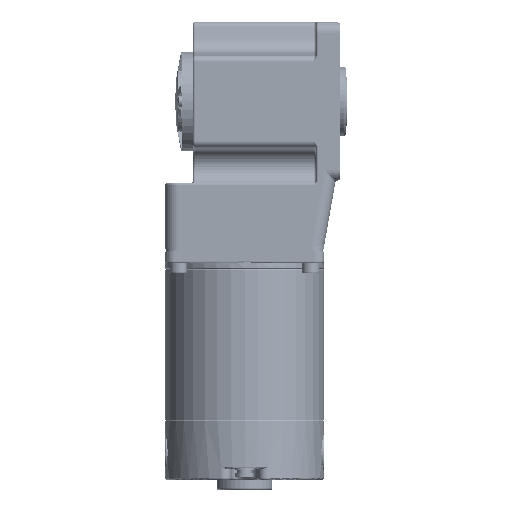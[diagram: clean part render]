
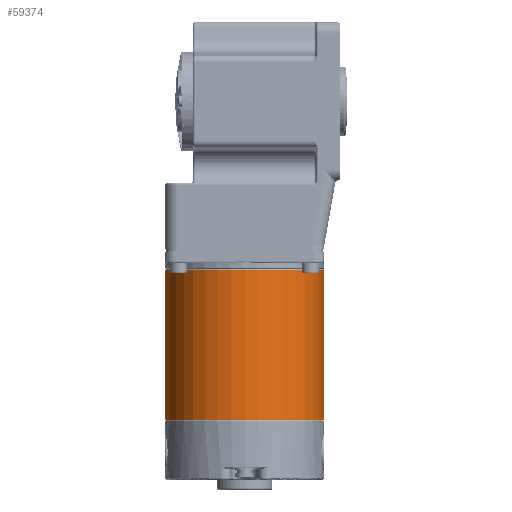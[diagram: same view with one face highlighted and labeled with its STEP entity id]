
A CAD part, front view. The second image highlights one B-rep face of the part: STEP entity #59374.
In plain terms, the highlighted cylindrical face has radius 40 mm (diameter 80 mm), a partial arc.
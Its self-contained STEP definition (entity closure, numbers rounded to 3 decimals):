
#192 = EDGE_LOOP ( 'NONE', ( #23613, #48236, #24735, #98974, #15618 ) ) ;
#1284 = DIRECTION ( 'NONE',  ( 0., 1., 0. ) ) ;
#6433 = CIRCLE ( 'NONE', #14237, 40. ) ;
#13185 = EDGE_CURVE ( 'NONE', #91516, #102251, #62380, .T. ) ;
#14237 = AXIS2_PLACEMENT_3D ( 'NONE', #28993, #1284, #99070 ) ;
#15618 = ORIENTED_EDGE ( 'NONE', *, *, #13185, .T. ) ;
#16999 = VECTOR ( 'NONE', #108159, 1000. ) ;
#18683 = LINE ( 'NONE', #77669, #61444 ) ;
#19146 = DIRECTION ( 'NONE',  ( 0., -1., 0. ) ) ;
#23613 = ORIENTED_EDGE ( 'NONE', *, *, #110107, .F. ) ;
#24735 = ORIENTED_EDGE ( 'NONE', *, *, #111936, .T. ) ;
#28993 = CARTESIAN_POINT ( 'NONE',  ( 0., 0.3, 0. ) ) ;
#31883 = EDGE_CURVE ( 'NONE', #78591, #91516, #81177, .T. ) ;
#33419 = DIRECTION ( 'NONE',  ( 0., 0., 1. ) ) ;
#33834 = CARTESIAN_POINT ( 'NONE',  ( 0., 0.3, 0. ) ) ;
#44873 = FACE_OUTER_BOUND ( 'NONE', #192, .T. ) ;
#48236 = ORIENTED_EDGE ( 'NONE', *, *, #98014, .T. ) ;
#51045 = CYLINDRICAL_SURFACE ( 'NONE', #60754, 40. ) ;
#54466 = VERTEX_POINT ( 'NONE', #89159 ) ;
#54700 = DIRECTION ( 'NONE',  ( 0., 1., 0. ) ) ;
#55554 = CARTESIAN_POINT ( 'NONE',  ( 0., 0., 0. ) ) ;
#59374 = ADVANCED_FACE ( 'NONE', ( #44873 ), #51045, .T. ) ;
#60754 = AXIS2_PLACEMENT_3D ( 'NONE', #55554, #54700, #123924 ) ;
#61408 = CARTESIAN_POINT ( 'NONE',  ( 0., 0.3, 40. ) ) ;
#61444 = VECTOR ( 'NONE', #97333, 1000. ) ;
#62380 = CIRCLE ( 'NONE', #97472, 40. ) ;
#64620 = DIRECTION ( 'NONE',  ( 0., 1., 0. ) ) ;
#70103 = CARTESIAN_POINT ( 'NONE',  ( 0., 0., 40. ) ) ;
#77669 = CARTESIAN_POINT ( 'NONE',  ( 0., 0., -40. ) ) ;
#78591 = VERTEX_POINT ( 'NONE', #61408 ) ;
#81177 = LINE ( 'NONE', #70103, #16999 ) ;
#87231 = AXIS2_PLACEMENT_3D ( 'NONE', #33834, #64620, #33419 ) ;
#89159 = CARTESIAN_POINT ( 'NONE',  ( -40., 0.3, 0. ) ) ;
#91516 = VERTEX_POINT ( 'NONE', #108960 ) ;
#95252 = VERTEX_POINT ( 'NONE', #106655 ) ;
#97298 = CARTESIAN_POINT ( 'NONE',  ( 0., 75.7, 0. ) ) ;
#97333 = DIRECTION ( 'NONE',  ( 0., 1., 0. ) ) ;
#97472 = AXIS2_PLACEMENT_3D ( 'NONE', #97298, #19146, #126777 ) ;
#98014 = EDGE_CURVE ( 'NONE', #95252, #54466, #106791, .T. ) ;
#98974 = ORIENTED_EDGE ( 'NONE', *, *, #31883, .T. ) ;
#99070 = DIRECTION ( 'NONE',  ( 0., 0., 1. ) ) ;
#102251 = VERTEX_POINT ( 'NONE', #114097 ) ;
#106655 = CARTESIAN_POINT ( 'NONE',  ( 0., 0.3, -40. ) ) ;
#106791 = CIRCLE ( 'NONE', #87231, 40. ) ;
#108159 = DIRECTION ( 'NONE',  ( 0., 1., 0. ) ) ;
#108960 = CARTESIAN_POINT ( 'NONE',  ( 0., 75.7, 40. ) ) ;
#110107 = EDGE_CURVE ( 'NONE', #95252, #102251, #18683, .T. ) ;
#111936 = EDGE_CURVE ( 'NONE', #54466, #78591, #6433, .T. ) ;
#114097 = CARTESIAN_POINT ( 'NONE',  ( 0., 75.7, -40. ) ) ;
#123924 = DIRECTION ( 'NONE',  ( 0., 0., 1. ) ) ;
#126777 = DIRECTION ( 'NONE',  ( 0., 0., 1. ) ) ;
